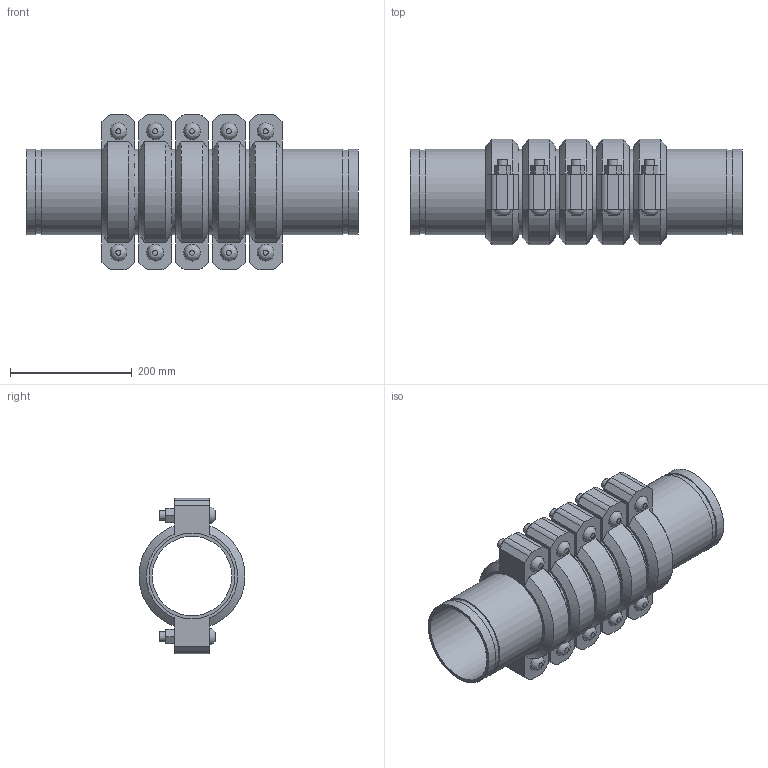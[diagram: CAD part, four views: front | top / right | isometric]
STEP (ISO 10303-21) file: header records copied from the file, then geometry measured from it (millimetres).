
FILE_DESCRIPTION(/* description */ ('VIC EXPANSION JOINT 5 COUPLINGS COMPRESSED STYLE 155 (OGS)','CAx-IF Rec.Pracs.---Representation and Presentation of Product Manufacturing Information (PMI)---4.0---2014-10-13'),/* implementation_level */ '2;1');
FILE_NAME(/* name */ 'C:\Users\kkamble\AppData\Roaming\Autodesk\ApplicationPlugins\Victaulic.Temp\A136\Victaulic_IPS_Expansion Joint_Compressed_5 Couplings_Style 155 (OGS)_5 (125).stp',/* time_stamp */ '2021-06-27T00:29:47+02:00',/* author */ ('kkamble'),/* organization */ ('Victaulic'),/* preprocessor_version */ 'ST-DEVELOPER v17.2',/* originating_system */ 'Autodesk Inventor 2019',/* authorisation */ '');
FILE_SCHEMA (('AP242_MANAGED_MODEL_BASED_3D_ENGINEERING_MIM_LF { 1 0 10303 442 1 1 4 }'));
Length unit declared in the file: inch
Products named in the file (4): 155-05.0; Nipple-05.0; Nipple-05.0_1; 075_5_Coup-05.0
Assembly tree (11 placements, depth 2):
  155-05.0
    Nipple-05.0  x2
    Nipple-05.0_1  x4
    075_5_Coup-05.0  x5
Bounding box: 545.85 x 174.16 x 255.78 mm (x, y, z)
Volume: 4440315.2 mm3; surface area: 1019530.9 mm2
Topology: 11 solids, 21 shells, 357 faces, 845 edges, 594 vertices
Faces by surface type: plane 216, cylinder 111, cone 20, bspline 10
Full cylindrical faces by diameter (mm): 15.875 x20, 17.424 x10, 130.988 x6, 134.95 x5, 137.033 x12, 141.3 x28
Entity records: 2810 total; most frequent: CARTESIAN_POINT 495, DIRECTION 465, ORIENTED_EDGE 386, EDGE_CURVE 193, AXIS2_PLACEMENT_3D 186, VERTEX_POINT 138, EDGE_LOOP 107, LINE 93
